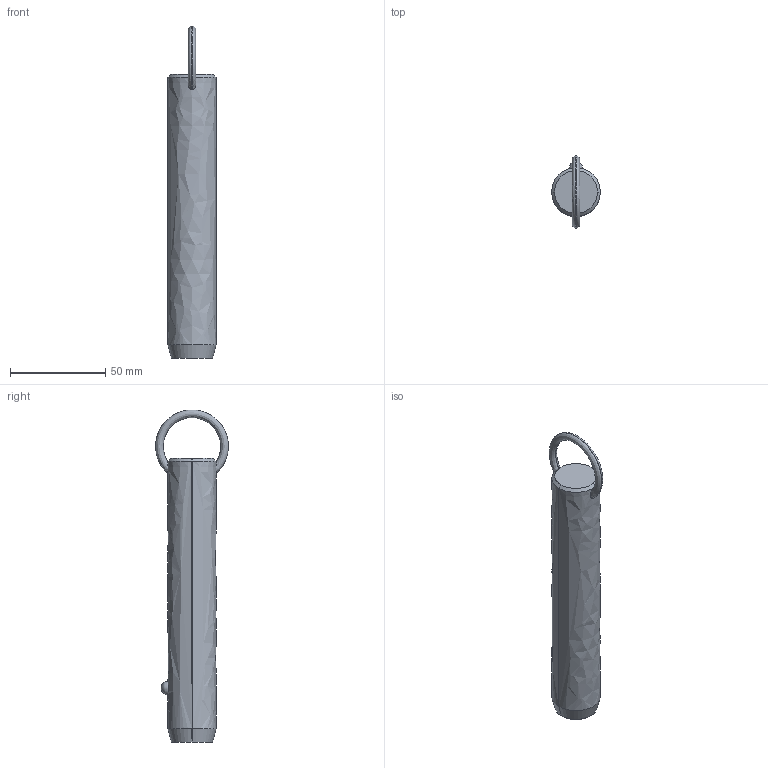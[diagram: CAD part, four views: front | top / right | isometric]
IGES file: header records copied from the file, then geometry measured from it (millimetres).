
Start section: SolidWorks IGES file using analytic representation for surfaces
Global section: file name: C:\Users\liam_\OneDrive\Documents\WORK\Work for WixRoyd\Job Files\J-00019 - Matt Davis CAD Checking\04. CAD Drawings\automotion20190605\P1250.2_v2\P1250.2_v2_20190729_IGES\P1250.100-410.igs; native system: SolidWorks 2017; preprocessor: SolidWorks 2017; author: liam_; date: 190730.173920; units: millimetre
Bounding box: 25.4 x 38.1 x 173.88 mm (x, y, z)
Surface area: 13623.1 mm2 (no closed solid volume)
Topology: 0 solids, 0 shells, 12 faces, 298 edges, 296 vertices
Faces by surface type: revolution 8, bspline 4
